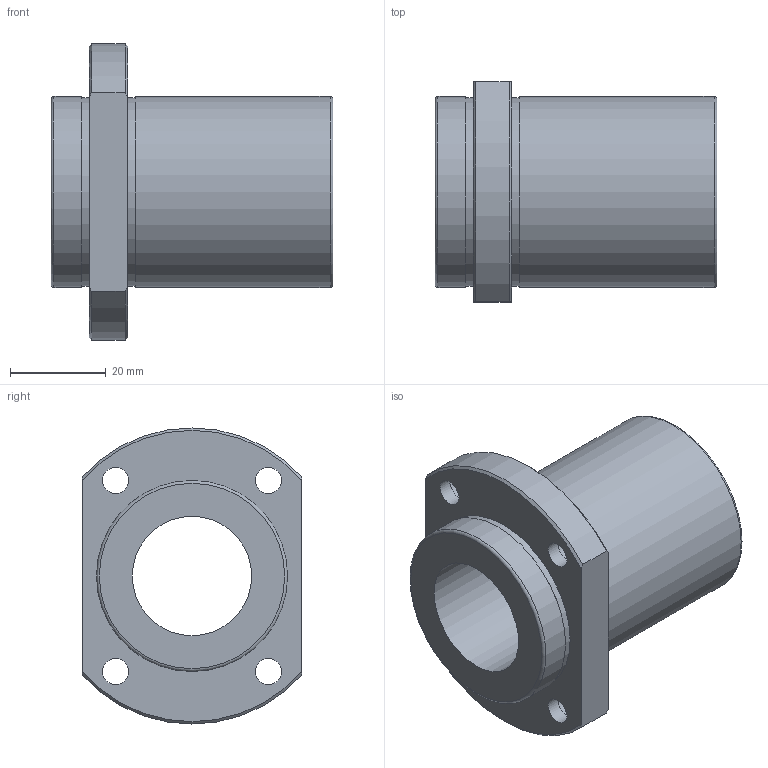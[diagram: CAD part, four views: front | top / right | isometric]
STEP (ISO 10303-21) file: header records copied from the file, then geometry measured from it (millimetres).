
FILE_DESCRIPTION(('STEP AP203'),'1');
FILE_NAME('//192.168.1.1/share/s-4 技術開発/s-4-4_CAD/s-4-4-3_見直し済み/002 修正済み/NFIO-V/NFIO-V_TOP/NFIO25.step','2022-03-07T02:09:55',(' '),(' '),'Spatial InterOp 3D',' ',' ');
FILE_SCHEMA(('CONFIG_CONTROL_DESIGN'));
Length unit declared in the file: millimetre
Products named in the file (1): 1
Bounding box: 59 x 46 x 62 mm (x, y, z)
Volume: 53910.7 mm3; surface area: 17260.8 mm2
Topology: 1 solids, 1 shells, 33 faces, 67 edges, 44 vertices
Faces by surface type: cylinder 15, plane 12, cone 4, torus 2
Full cylindrical faces by diameter (mm): 5.5 x4, 9 x4, 25 x1, 39.5 x2, 40 x2
Entity records: 878 total; most frequent: CARTESIAN_POINT 154, DIRECTION 148, ORIENTED_EDGE 104, AXIS2_PLACEMENT_3D 70, EDGE_LOOP 66, EDGE_CURVE 52, FACE_OUTER_BOUND 48, VERTEX_POINT 44
